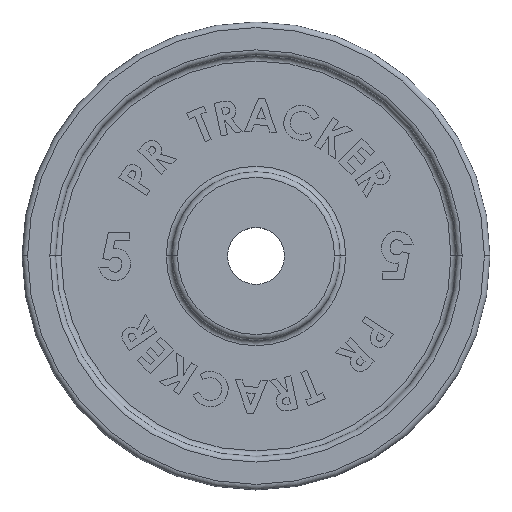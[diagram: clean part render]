
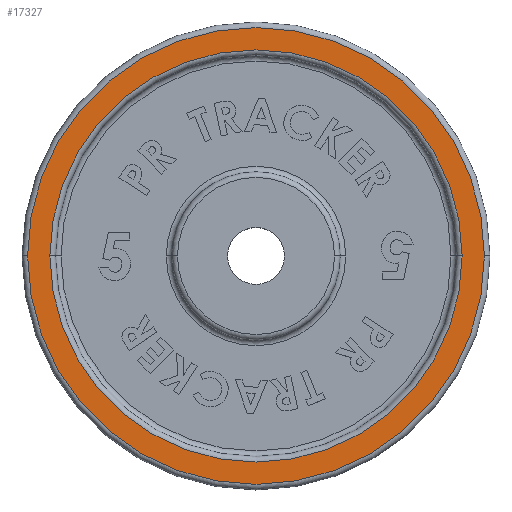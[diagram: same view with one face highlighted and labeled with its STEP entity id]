
A CAD part, top view. The second image highlights one B-rep face of the part: STEP entity #17327.
In plain terms, the highlighted planar face has unit normal (0, 0, 1).
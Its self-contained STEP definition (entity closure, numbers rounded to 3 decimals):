
#22 = DIRECTION ( 'NONE',  ( 0., 0., 1. ) ) ;
#382 = DIRECTION ( 'NONE',  ( 0., 0., -1. ) ) ;
#396 = CARTESIAN_POINT ( 'NONE',  ( 0., 0., 4. ) ) ;
#889 = CARTESIAN_POINT ( 'NONE',  ( 18.5, 0., 4. ) ) ;
#1574 = AXIS2_PLACEMENT_3D ( 'NONE', #11500, #9485, #17495 ) ;
#2009 = AXIS2_PLACEMENT_3D ( 'NONE', #396, #22377, #8511 ) ;
#2347 = PLANE ( 'NONE',  #22732 ) ;
#2440 = EDGE_LOOP ( 'NONE', ( #25650, #17521 ) ) ;
#2875 = CARTESIAN_POINT ( 'NONE',  ( 0., 0., 4. ) ) ;
#3165 = CARTESIAN_POINT ( 'NONE',  ( -18.5, 0., 4. ) ) ;
#3519 = CARTESIAN_POINT ( 'NONE',  ( 20.5, 0., 4. ) ) ;
#5084 = VERTEX_POINT ( 'NONE', #3165 ) ;
#6105 = CARTESIAN_POINT ( 'NONE',  ( 0., 0., 4. ) ) ;
#7417 = AXIS2_PLACEMENT_3D ( 'NONE', #22533, #22, #16659 ) ;
#7824 = CIRCLE ( 'NONE', #7417, 20.5 ) ;
#8170 = VERTEX_POINT ( 'NONE', #3519 ) ;
#8511 = DIRECTION ( 'NONE',  ( 1., 0., 0. ) ) ;
#9485 = DIRECTION ( 'NONE',  ( 0., 0., -1. ) ) ;
#10865 = DIRECTION ( 'NONE',  ( 1., 0., 0. ) ) ;
#11002 = DIRECTION ( 'NONE',  ( 0., 0., 1. ) ) ;
#11500 = CARTESIAN_POINT ( 'NONE',  ( 0., 0., 4. ) ) ;
#11722 = AXIS2_PLACEMENT_3D ( 'NONE', #6105, #382, #19122 ) ;
#12866 = EDGE_LOOP ( 'NONE', ( #25116, #14515 ) ) ;
#14515 = ORIENTED_EDGE ( 'NONE', *, *, #24879, .T. ) ;
#16534 = VERTEX_POINT ( 'NONE', #23746 ) ;
#16659 = DIRECTION ( 'NONE',  ( 1., 0., 0. ) ) ;
#17327 = ADVANCED_FACE ( 'NONE', ( #22595, #20588 ), #2347, .T. ) ;
#17495 = DIRECTION ( 'NONE',  ( 1., 0., 0. ) ) ;
#17521 = ORIENTED_EDGE ( 'NONE', *, *, #24410, .T. ) ;
#17620 = EDGE_CURVE ( 'NONE', #8170, #16534, #7824, .T. ) ;
#18169 = CIRCLE ( 'NONE', #1574, 18.5 ) ;
#18946 = CIRCLE ( 'NONE', #11722, 18.5 ) ;
#19122 = DIRECTION ( 'NONE',  ( 1., 0., 0. ) ) ;
#20588 = FACE_BOUND ( 'NONE', #2440, .T. ) ;
#21705 = EDGE_CURVE ( 'NONE', #25328, #5084, #18946, .T. ) ;
#22377 = DIRECTION ( 'NONE',  ( 0., 0., 1. ) ) ;
#22533 = CARTESIAN_POINT ( 'NONE',  ( 0., 0., 4. ) ) ;
#22595 = FACE_OUTER_BOUND ( 'NONE', #12866, .T. ) ;
#22732 = AXIS2_PLACEMENT_3D ( 'NONE', #2875, #11002, #10865 ) ;
#23746 = CARTESIAN_POINT ( 'NONE',  ( -20.5, 0., 4. ) ) ;
#24410 = EDGE_CURVE ( 'NONE', #5084, #25328, #18169, .T. ) ;
#24879 = EDGE_CURVE ( 'NONE', #16534, #8170, #24979, .T. ) ;
#24979 = CIRCLE ( 'NONE', #2009, 20.5 ) ;
#25116 = ORIENTED_EDGE ( 'NONE', *, *, #17620, .T. ) ;
#25328 = VERTEX_POINT ( 'NONE', #889 ) ;
#25650 = ORIENTED_EDGE ( 'NONE', *, *, #21705, .T. ) ;
